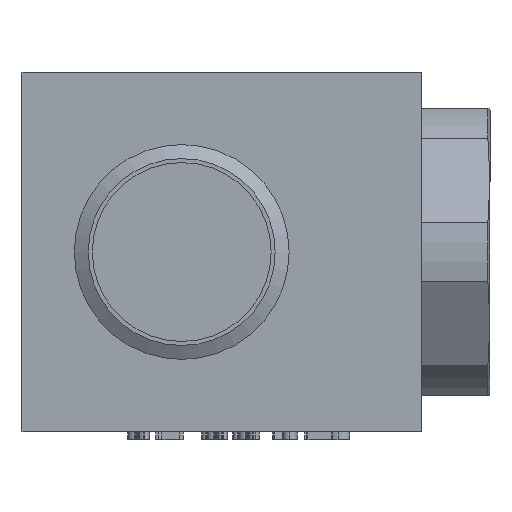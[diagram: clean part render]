
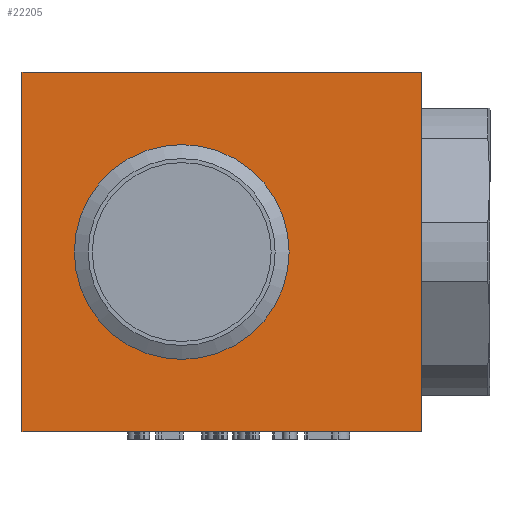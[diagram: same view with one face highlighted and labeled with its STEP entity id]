
A CAD part, left-side view. The second image highlights one B-rep face of the part: STEP entity #22205.
In plain terms, the highlighted planar face has unit normal (-1, 0, 0).
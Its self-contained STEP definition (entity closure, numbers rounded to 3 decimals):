
#54=CIRCLE('',#22911,13.45);
#215=FACE_BOUND('',#3113,.T.);
#1850=FACE_OUTER_BOUND('',#3112,.T.);
#3112=EDGE_LOOP('',(#20277,#20278,#20279,#20280));
#3113=EDGE_LOOP('',(#20281));
#6309=LINE('',#38747,#8532);
#6312=LINE('',#38775,#8535);
#6315=LINE('',#38781,#8538);
#6317=LINE('',#38784,#8540);
#8532=VECTOR('',#26443,50.);
#8535=VECTOR('',#26488,45.);
#8538=VECTOR('',#26493,50.);
#8540=VECTOR('',#26497,45.);
#10661=VERTEX_POINT('',#38740);
#10664=VERTEX_POINT('',#38745);
#10667=VERTEX_POINT('',#38771);
#10669=VERTEX_POINT('',#38777);
#10684=VERTEX_POINT('',#38813);
#13867=EDGE_CURVE('',#10661,#10664,#6309,.T.);
#13872=EDGE_CURVE('',#10667,#10661,#6312,.T.);
#13875=EDGE_CURVE('',#10669,#10667,#6315,.T.);
#13877=EDGE_CURVE('',#10664,#10669,#6317,.T.);
#13891=EDGE_CURVE('',#10684,#10684,#54,.T.);
#20277=ORIENTED_EDGE('',*,*,#13867,.T.);
#20278=ORIENTED_EDGE('',*,*,#13877,.T.);
#20279=ORIENTED_EDGE('',*,*,#13875,.T.);
#20280=ORIENTED_EDGE('',*,*,#13872,.T.);
#20281=ORIENTED_EDGE('',*,*,#13891,.F.);
#21050=PLANE('',#22910);
#22205=ADVANCED_FACE('',(#1850,#215),#21050,.T.);
#22910=AXIS2_PLACEMENT_3D('',#38812,#26520,#26521);
#22911=AXIS2_PLACEMENT_3D('',#38814,#26522,#26523);
#26443=DIRECTION('',(0.,-1.,0.));
#26488=DIRECTION('',(0.,0.,-1.));
#26493=DIRECTION('',(0.,1.,0.));
#26497=DIRECTION('',(0.,0.,1.));
#26520=DIRECTION('center_axis',(-1.,0.,0.));
#26521=DIRECTION('ref_axis',(0.,0.,1.));
#26522=DIRECTION('center_axis',(-1.,0.,0.));
#26523=DIRECTION('ref_axis',(0.,1.,0.));
#38740=CARTESIAN_POINT('',(-22.5,25.,-22.5));
#38745=CARTESIAN_POINT('',(-22.5,-25.,-22.5));
#38747=CARTESIAN_POINT('',(-22.5,-25.,-22.5));
#38771=CARTESIAN_POINT('',(-22.5,25.,22.5));
#38775=CARTESIAN_POINT('',(-22.5,25.,-22.5));
#38777=CARTESIAN_POINT('',(-22.5,-25.,22.5));
#38781=CARTESIAN_POINT('',(-22.5,25.,22.5));
#38784=CARTESIAN_POINT('',(-22.5,-25.,22.5));
#38812=CARTESIAN_POINT('Origin',(-22.5,0.,0.));
#38813=CARTESIAN_POINT('',(-22.5,-8.45,0.));
#38814=CARTESIAN_POINT('Origin',(-22.5,5.,0.));
